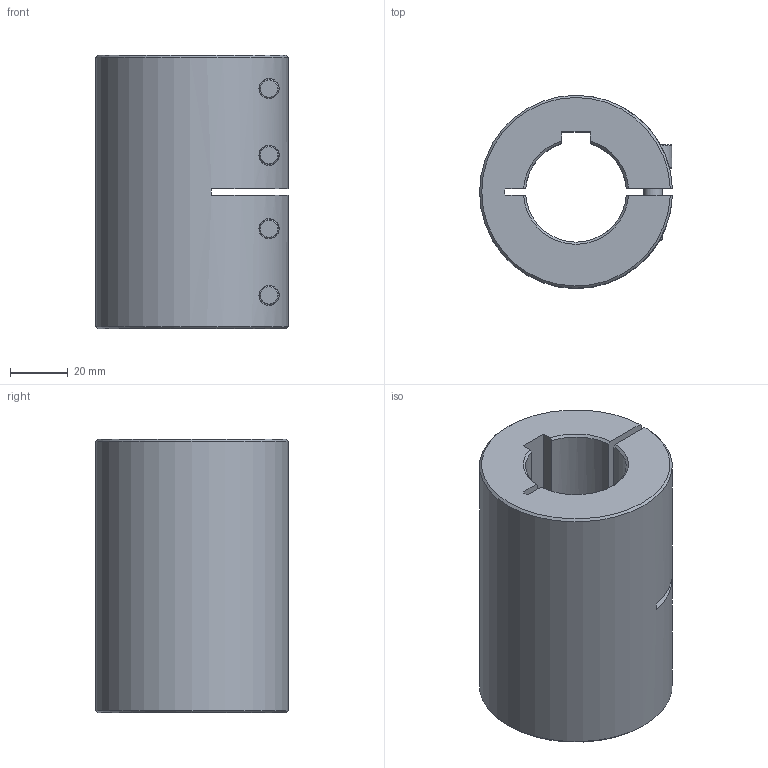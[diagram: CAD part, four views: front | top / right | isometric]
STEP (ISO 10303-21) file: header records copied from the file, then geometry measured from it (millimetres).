
FILE_DESCRIPTION((''),'2;1');
FILE_NAME('MCLC-35-35-F','2016-09-07T',('SYSTEM'),(''),'PRO/ENGINEER BY PARAMETRIC TECHNOLOGY CORPORATION, 2015110','PRO/ENGINEER BY PARAMETRIC TECHNOLOGY CORPORATION, 2015110','');
FILE_SCHEMA(('AUTOMOTIVE_DESIGN { 1 0 10303 214 1 1 1 1 }'));
Length unit declared in the file: inch
Products named in the file (1): MCLC-35-35-F
Bounding box: 66.98 x 66.99 x 95 mm (x, y, z)
Volume: 227777.7 mm3; surface area: 48591 mm2
Topology: 1 solids, 1 shells, 132 faces, 319 edges, 205 vertices
Faces by surface type: plane 68, cylinder 40, cone 24
Entity records: 5118 total; most frequent: CARTESIAN_POINT 981, DIRECTION 664, ORIENTED_EDGE 638, EDGE_CURVE 319, AXIS2_PLACEMENT_3D 241, VERTEX_POINT 205, VECTOR 182, LINE 182
